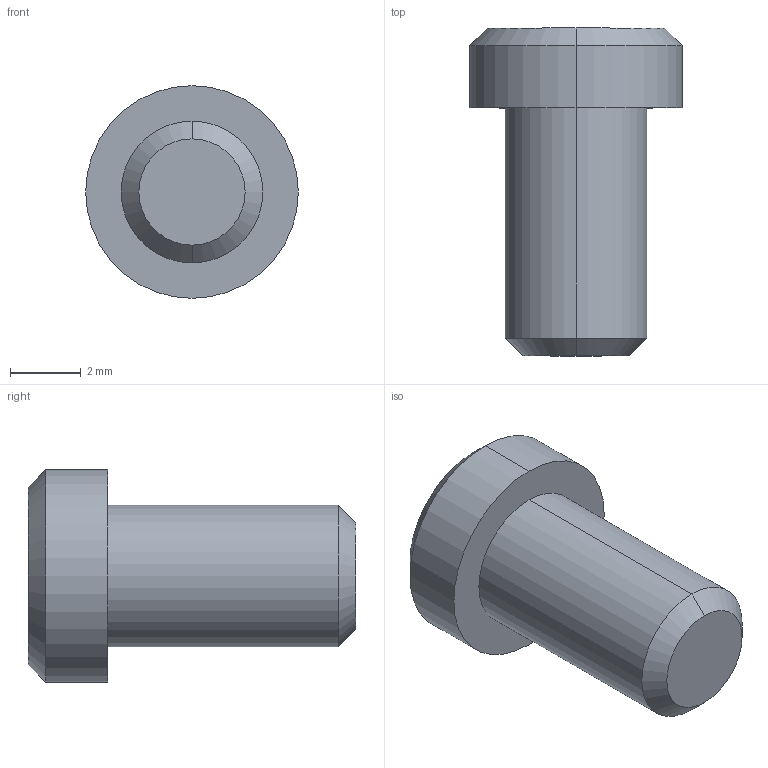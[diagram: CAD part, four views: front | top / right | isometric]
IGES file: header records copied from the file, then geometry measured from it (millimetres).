
Start section: 3D InterOp IGES (v. 2019 1.0.2), Spatial Corp. Copyright (c) 1999-2017.
Global section: file name: SS SDP6.igs; native system: Spatial Corp.; preprocessor: 3D InterOp GENERIC/IGES 3.0; author: Noname; organization: Noname; date: 20220628.112212; units: millimetre
Bounding box: 6 x 9.25 x 6 mm (x, y, z)
Surface area: 177.1 mm2 (no closed solid volume)
Topology: 0 solids, 0 shells, 11 faces, 40 edges, 40 vertices
Faces by surface type: revolution 8, extrusion 3
